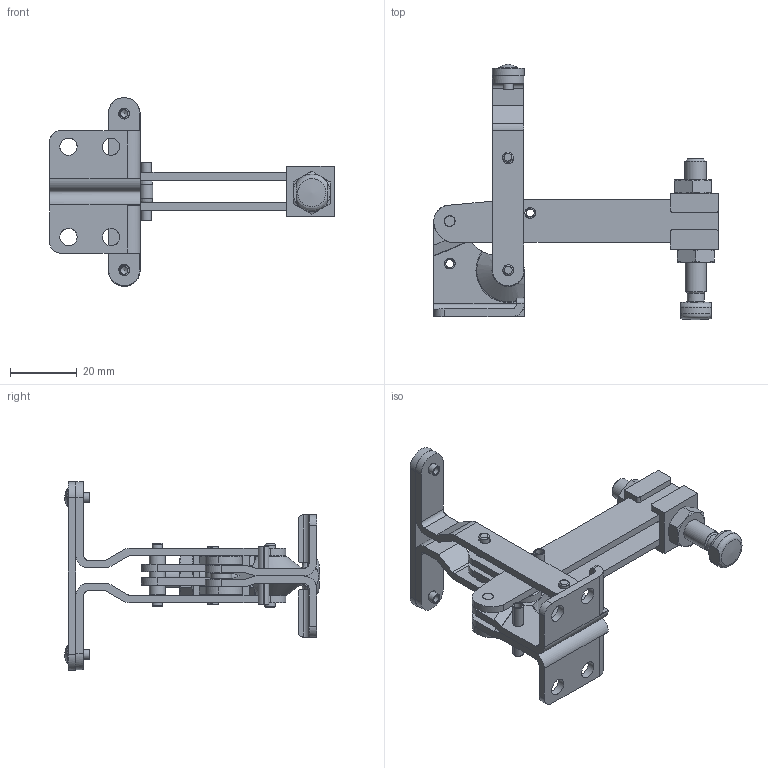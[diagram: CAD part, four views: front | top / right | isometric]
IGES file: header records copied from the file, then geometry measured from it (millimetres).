
Global section: file name: T-100; native system: Autodesk RealDWG; preprocessor: Autodesk Translation Framework DWG producer (atf_dwg_producer); author: rtaylor; organization: unknown; date: 20151006.123140; units: inch
Bounding box: 84.95 x 76.26 x 56.39 mm (x, y, z)
Volume: 19231 mm3; surface area: 21994.7 mm2
Topology: 22 solids, 22 shells, 337 faces, 824 edges, 545 vertices
Faces by surface type: bspline 337
